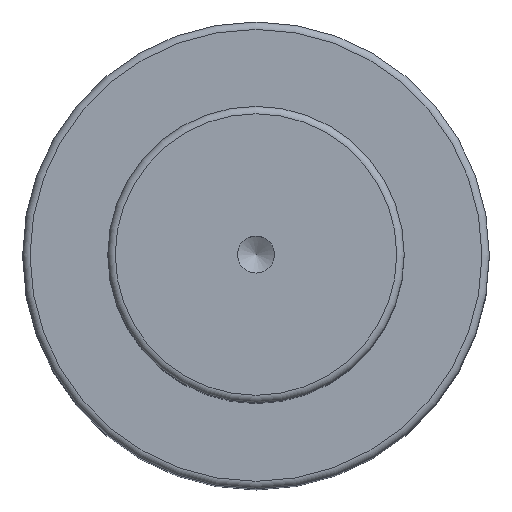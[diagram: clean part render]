
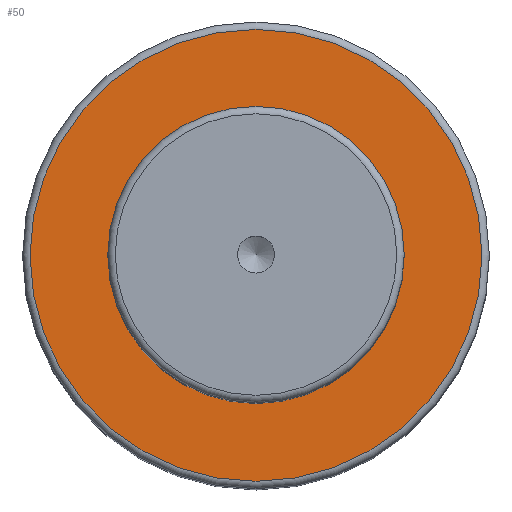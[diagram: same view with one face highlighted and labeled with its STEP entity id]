
A CAD part, top view. The second image highlights one B-rep face of the part: STEP entity #50.
In plain terms, the highlighted planar face has unit normal (0, 0, 1).
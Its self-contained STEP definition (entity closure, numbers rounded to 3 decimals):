
#40=PLANE('',#179);
#50=ADVANCED_FACE('',(#72,#73),#40,.F.);
#72=FACE_BOUND('',#96,.T.);
#73=FACE_BOUND('',#97,.T.);
#96=EDGE_LOOP('',(#118));
#97=EDGE_LOOP('',(#119));
#118=ORIENTED_EDGE('',*,*,#149,.F.);
#119=ORIENTED_EDGE('',*,*,#148,.T.);
#135=VERTEX_POINT('',#256);
#136=VERTEX_POINT('',#259);
#148=EDGE_CURVE('',#135,#135,#159,.T.);
#149=EDGE_CURVE('',#136,#136,#160,.T.);
#159=CIRCLE('',#176,20.);
#160=CIRCLE('',#178,30.5);
#176=AXIS2_PLACEMENT_3D('',#255,#213,#214);
#178=AXIS2_PLACEMENT_3D('',#258,#217,#218);
#179=AXIS2_PLACEMENT_3D('',#260,#219,#220);
#213=DIRECTION('',(0.,0.,-1.));
#214=DIRECTION('',(-1.,0.,0.));
#217=DIRECTION('',(0.,0.,-1.));
#218=DIRECTION('',(-1.,0.,0.));
#219=DIRECTION('',(0.,0.,-1.));
#220=DIRECTION('',(-1.,0.,0.));
#255=CARTESIAN_POINT('',(0.,0.,97.));
#256=CARTESIAN_POINT('',(-20.,0.,97.));
#258=CARTESIAN_POINT('',(0.,0.,97.));
#259=CARTESIAN_POINT('',(-30.5,0.,97.));
#260=CARTESIAN_POINT('',(20.,0.,97.));
